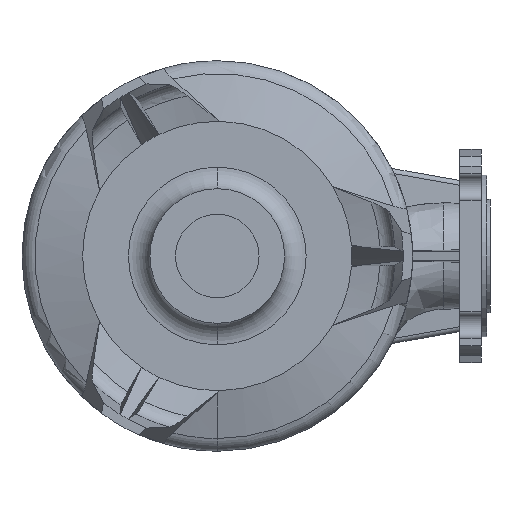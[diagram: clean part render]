
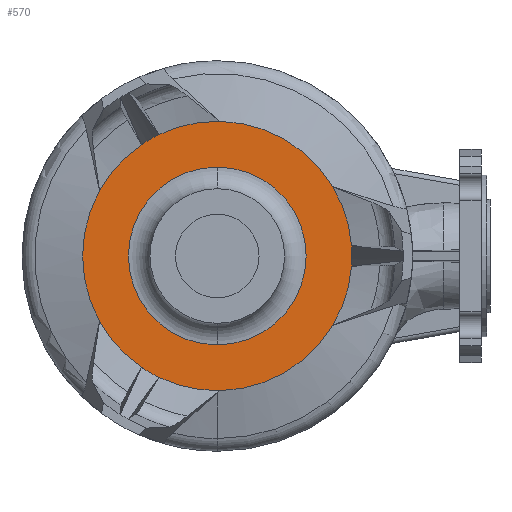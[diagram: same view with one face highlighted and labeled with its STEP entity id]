
A CAD part, front view. The second image highlights one B-rep face of the part: STEP entity #570.
In plain terms, the highlighted planar face has unit normal (0, -1, 0).
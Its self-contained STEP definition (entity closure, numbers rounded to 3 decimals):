
#266 = DIRECTION ( 'NONE',  ( 0., 0., -1. ) ) ;
#295 = DIRECTION ( 'NONE',  ( 0., -1., 0. ) ) ;
#343 = EDGE_CURVE ( 'NONE', #8348, #3904, #9026, .T. ) ;
#357 = ORIENTED_EDGE ( 'NONE', *, *, #5795, .T. ) ;
#430 = CARTESIAN_POINT ( 'NONE',  ( 0., -120., 0. ) ) ;
#523 = CIRCLE ( 'NONE', #6142, 100. ) ;
#547 = CARTESIAN_POINT ( 'NONE',  ( 0., -120., 0. ) ) ;
#570 = ADVANCED_FACE ( 'NONE', ( #724, #8513 ), #5478, .F. ) ;
#611 = DIRECTION ( 'NONE',  ( 0., 0., -1. ) ) ;
#664 = VERTEX_POINT ( 'NONE', #6476 ) ;
#724 = FACE_BOUND ( 'NONE', #8745, .T. ) ;
#745 = DIRECTION ( 'NONE',  ( 0., -1., 0. ) ) ;
#1039 = DIRECTION ( 'NONE',  ( 0., 0., -1. ) ) ;
#1193 = AXIS2_PLACEMENT_3D ( 'NONE', #547, #2979, #3709 ) ;
#1211 = EDGE_CURVE ( 'NONE', #664, #6139, #9711, .T. ) ;
#1309 = CIRCLE ( 'NONE', #3612, 100. ) ;
#1320 = AXIS2_PLACEMENT_3D ( 'NONE', #3284, #4989, #266 ) ;
#1341 = ORIENTED_EDGE ( 'NONE', *, *, #3505, .F. ) ;
#1542 = DIRECTION ( 'NONE',  ( 0., 0., -1. ) ) ;
#1628 = DIRECTION ( 'NONE',  ( 0., 1., 0. ) ) ;
#1659 = DIRECTION ( 'NONE',  ( 0., -1., 0. ) ) ;
#1717 = ORIENTED_EDGE ( 'NONE', *, *, #2400, .T. ) ;
#1826 = CARTESIAN_POINT ( 'NONE',  ( -56.34, -120., -82.618 ) ) ;
#1936 = DIRECTION ( 'NONE',  ( 0., 0., 1. ) ) ;
#1978 = AXIS2_PLACEMENT_3D ( 'NONE', #4610, #3002, #6338 ) ;
#1985 = CARTESIAN_POINT ( 'NONE',  ( 0., -120., 0. ) ) ;
#1986 = DIRECTION ( 'NONE',  ( 0., 1., 0. ) ) ;
#2032 = VERTEX_POINT ( 'NONE', #1826 ) ;
#2122 = AXIS2_PLACEMENT_3D ( 'NONE', #3372, #8278, #1936 ) ;
#2384 = DIRECTION ( 'NONE',  ( 0., 1., 0. ) ) ;
#2400 = EDGE_CURVE ( 'NONE', #3591, #8118, #523, .T. ) ;
#2427 = CARTESIAN_POINT ( 'NONE',  ( 0., -120., 0. ) ) ;
#2440 = CARTESIAN_POINT ( 'NONE',  ( 99.72, -120., 7.483 ) ) ;
#2508 = DIRECTION ( 'NONE',  ( 0., 0., -1. ) ) ;
#2523 = DIRECTION ( 'NONE',  ( 0., 0., -1. ) ) ;
#2724 = EDGE_LOOP ( 'NONE', ( #1341, #7584, #1717, #6078, #4419, #8140, #3705, #6010, #9856, #357, #3857, #6908, #3180 ) ) ;
#2817 = DIRECTION ( 'NONE',  ( 0., 0., 1. ) ) ;
#2845 = CIRCLE ( 'NONE', #1193, 100. ) ;
#2979 = DIRECTION ( 'NONE',  ( 0., -1., 0. ) ) ;
#3002 = DIRECTION ( 'NONE',  ( 0., 1., 0. ) ) ;
#3180 = ORIENTED_EDGE ( 'NONE', *, *, #6268, .T. ) ;
#3284 = CARTESIAN_POINT ( 'NONE',  ( 0., -120., 0. ) ) ;
#3314 = VERTEX_POINT ( 'NONE', #8219 ) ;
#3372 = CARTESIAN_POINT ( 'NONE',  ( 0., -120., 0. ) ) ;
#3396 = DIRECTION ( 'NONE',  ( 0., 0., -1. ) ) ;
#3503 = CARTESIAN_POINT ( 'NONE',  ( 1.763, -120., 99.984 ) ) ;
#3505 = EDGE_CURVE ( 'NONE', #3314, #10150, #6160, .T. ) ;
#3591 = VERTEX_POINT ( 'NONE', #3503 ) ;
#3612 = AXIS2_PLACEMENT_3D ( 'NONE', #4760, #1659, #7935 ) ;
#3684 = EDGE_CURVE ( 'NONE', #2032, #9589, #2845, .T. ) ;
#3705 = ORIENTED_EDGE ( 'NONE', *, *, #1211, .F. ) ;
#3709 = DIRECTION ( 'NONE',  ( 0., 0., 1. ) ) ;
#3782 = AXIS2_PLACEMENT_3D ( 'NONE', #430, #9882, #2817 ) ;
#3805 = CIRCLE ( 'NONE', #7227, 100. ) ;
#3813 = CARTESIAN_POINT ( 'NONE',  ( 0., -120., 0. ) ) ;
#3857 = ORIENTED_EDGE ( 'NONE', *, *, #343, .F. ) ;
#3904 = VERTEX_POINT ( 'NONE', #9529 ) ;
#3962 = DIRECTION ( 'NONE',  ( 0., 1., 0. ) ) ;
#4097 = AXIS2_PLACEMENT_3D ( 'NONE', #9024, #1986, #9076 ) ;
#4419 = ORIENTED_EDGE ( 'NONE', *, *, #5170, .T. ) ;
#4443 = CIRCLE ( 'NONE', #10037, 66. ) ;
#4600 = EDGE_CURVE ( 'NONE', #3591, #3314, #5102, .T. ) ;
#4610 = CARTESIAN_POINT ( 'NONE',  ( -66., -120., 0. ) ) ;
#4611 = CIRCLE ( 'NONE', #4097, 66. ) ;
#4663 = VERTEX_POINT ( 'NONE', #6089 ) ;
#4760 = CARTESIAN_POINT ( 'NONE',  ( 0., -120., 0. ) ) ;
#4783 = DIRECTION ( 'NONE',  ( 0., 0., -1. ) ) ;
#4882 = CARTESIAN_POINT ( 'NONE',  ( 99.72, -120., -7.483 ) ) ;
#4982 = EDGE_CURVE ( 'NONE', #9501, #8348, #5748, .T. ) ;
#4989 = DIRECTION ( 'NONE',  ( 0., 1., 0. ) ) ;
#5012 = DIRECTION ( 'NONE',  ( 0., 0., -1. ) ) ;
#5030 = CIRCLE ( 'NONE', #9311, 100. ) ;
#5102 = CIRCLE ( 'NONE', #7386, 100. ) ;
#5129 = DIRECTION ( 'NONE',  ( 0., 0., -1. ) ) ;
#5130 = CARTESIAN_POINT ( 'NONE',  ( 0., -120., -66. ) ) ;
#5170 = EDGE_CURVE ( 'NONE', #6796, #4663, #6244, .T. ) ;
#5247 = ORIENTED_EDGE ( 'NONE', *, *, #5803, .T. ) ;
#5295 = AXIS2_PLACEMENT_3D ( 'NONE', #7813, #3962, #1542 ) ;
#5391 = EDGE_CURVE ( 'NONE', #8260, #5394, #4611, .T. ) ;
#5394 = VERTEX_POINT ( 'NONE', #5130 ) ;
#5454 = CARTESIAN_POINT ( 'NONE',  ( 0., -120., 0. ) ) ;
#5478 = PLANE ( 'NONE',  #1978 ) ;
#5688 = DIRECTION ( 'NONE',  ( 0., -1., 0. ) ) ;
#5748 = CIRCLE ( 'NONE', #1320, 100. ) ;
#5795 = EDGE_CURVE ( 'NONE', #9589, #3904, #1309, .T. ) ;
#5803 = EDGE_CURVE ( 'NONE', #5394, #8260, #4443, .T. ) ;
#6010 = ORIENTED_EDGE ( 'NONE', *, *, #7647, .T. ) ;
#6078 = ORIENTED_EDGE ( 'NONE', *, *, #7406, .T. ) ;
#6089 = CARTESIAN_POINT ( 'NONE',  ( -56.34, -120., 82.618 ) ) ;
#6094 = AXIS2_PLACEMENT_3D ( 'NONE', #2427, #2384, #2523 ) ;
#6139 = VERTEX_POINT ( 'NONE', #9370 ) ;
#6142 = AXIS2_PLACEMENT_3D ( 'NONE', #5454, #745, #1039 ) ;
#6160 = CIRCLE ( 'NONE', #9930, 100. ) ;
#6244 = CIRCLE ( 'NONE', #3782, 100. ) ;
#6268 = EDGE_CURVE ( 'NONE', #9501, #10150, #6729, .T. ) ;
#6338 = DIRECTION ( 'NONE',  ( 0., 0., -1. ) ) ;
#6403 = DIRECTION ( 'NONE',  ( 0., 1., 0. ) ) ;
#6476 = CARTESIAN_POINT ( 'NONE',  ( -87.471, -120., -48.465 ) ) ;
#6729 = CIRCLE ( 'NONE', #2122, 100. ) ;
#6757 = CARTESIAN_POINT ( 'NONE',  ( 0., -120., 0. ) ) ;
#6796 = VERTEX_POINT ( 'NONE', #8631 ) ;
#6908 = ORIENTED_EDGE ( 'NONE', *, *, #4982, .F. ) ;
#6959 = EDGE_CURVE ( 'NONE', #4663, #6139, #9373, .T. ) ;
#7227 = AXIS2_PLACEMENT_3D ( 'NONE', #9359, #7914, #2508 ) ;
#7308 = CARTESIAN_POINT ( 'NONE',  ( 0., -120., 0. ) ) ;
#7386 = AXIS2_PLACEMENT_3D ( 'NONE', #6757, #9899, #611 ) ;
#7406 = EDGE_CURVE ( 'NONE', #8118, #6796, #3805, .T. ) ;
#7584 = ORIENTED_EDGE ( 'NONE', *, *, #4600, .F. ) ;
#7647 = EDGE_CURVE ( 'NONE', #664, #2032, #5030, .T. ) ;
#7813 = CARTESIAN_POINT ( 'NONE',  ( 0., -120., 0. ) ) ;
#7914 = DIRECTION ( 'NONE',  ( 0., -1., 0. ) ) ;
#7935 = DIRECTION ( 'NONE',  ( 0., 0., -1. ) ) ;
#8118 = VERTEX_POINT ( 'NONE', #9287 ) ;
#8140 = ORIENTED_EDGE ( 'NONE', *, *, #6959, .T. ) ;
#8219 = CARTESIAN_POINT ( 'NONE',  ( 85.707, -120., 51.519 ) ) ;
#8260 = VERTEX_POINT ( 'NONE', #8799 ) ;
#8278 = DIRECTION ( 'NONE',  ( 0., -1., 0. ) ) ;
#8293 = CARTESIAN_POINT ( 'NONE',  ( 85.707, -120., -51.519 ) ) ;
#8348 = VERTEX_POINT ( 'NONE', #8293 ) ;
#8513 = FACE_OUTER_BOUND ( 'NONE', #2724, .T. ) ;
#8631 = CARTESIAN_POINT ( 'NONE',  ( -43.379, -120., 90.101 ) ) ;
#8745 = EDGE_LOOP ( 'NONE', ( #5247, #9959 ) ) ;
#8799 = CARTESIAN_POINT ( 'NONE',  ( 0., -120., 66. ) ) ;
#9022 = AXIS2_PLACEMENT_3D ( 'NONE', #7308, #295, #3396 ) ;
#9024 = CARTESIAN_POINT ( 'NONE',  ( 0., -120., 0. ) ) ;
#9026 = CIRCLE ( 'NONE', #6094, 100. ) ;
#9076 = DIRECTION ( 'NONE',  ( 0., 0., -1. ) ) ;
#9196 = CARTESIAN_POINT ( 'NONE',  ( -43.379, -120., -90.101 ) ) ;
#9287 = CARTESIAN_POINT ( 'NONE',  ( 0., -120., 100. ) ) ;
#9311 = AXIS2_PLACEMENT_3D ( 'NONE', #1985, #5688, #5129 ) ;
#9359 = CARTESIAN_POINT ( 'NONE',  ( 0., -120., 0. ) ) ;
#9370 = CARTESIAN_POINT ( 'NONE',  ( -87.471, -120., 48.465 ) ) ;
#9373 = CIRCLE ( 'NONE', #9022, 100. ) ;
#9501 = VERTEX_POINT ( 'NONE', #4882 ) ;
#9529 = CARTESIAN_POINT ( 'NONE',  ( 1.763, -120., -99.984 ) ) ;
#9589 = VERTEX_POINT ( 'NONE', #9196 ) ;
#9711 = CIRCLE ( 'NONE', #5295, 100. ) ;
#9747 = CARTESIAN_POINT ( 'NONE',  ( 0., -120., 0. ) ) ;
#9856 = ORIENTED_EDGE ( 'NONE', *, *, #3684, .T. ) ;
#9882 = DIRECTION ( 'NONE',  ( 0., -1., 0. ) ) ;
#9899 = DIRECTION ( 'NONE',  ( 0., 1., 0. ) ) ;
#9930 = AXIS2_PLACEMENT_3D ( 'NONE', #3813, #1628, #4783 ) ;
#9959 = ORIENTED_EDGE ( 'NONE', *, *, #5391, .T. ) ;
#10037 = AXIS2_PLACEMENT_3D ( 'NONE', #9747, #6403, #5012 ) ;
#10150 = VERTEX_POINT ( 'NONE', #2440 ) ;
